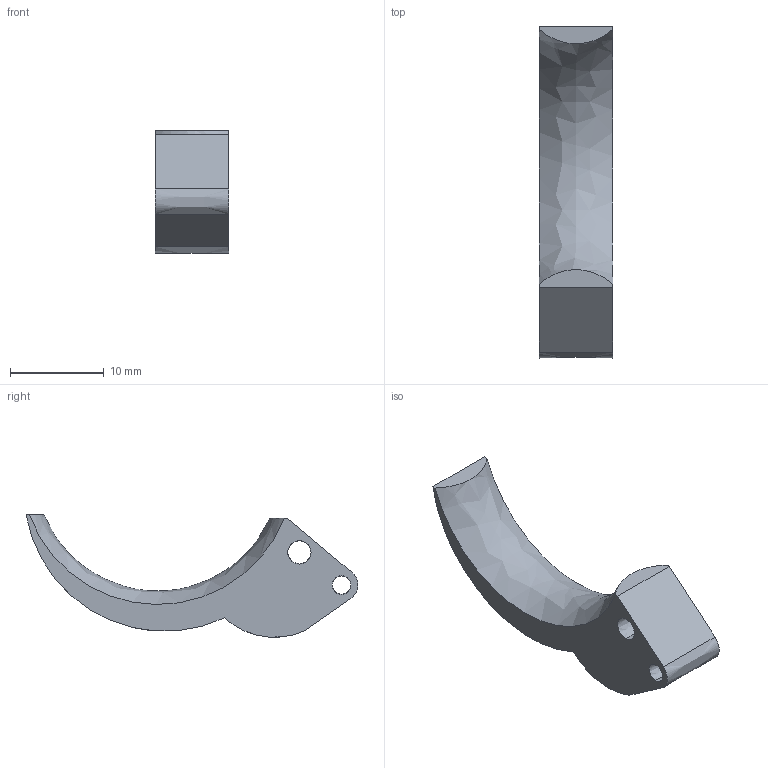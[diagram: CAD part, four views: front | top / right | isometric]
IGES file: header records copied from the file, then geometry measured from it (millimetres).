
Start section:  PTC IGES file: C:\Documents and Settings\audibk\personal\guns\walther\W alther_PPK\iges\abzug01.igs
Global section: file name: C:\Documents and Settings\audibk\personal\guns\walther\Walther_PPK\iges\abzug01.igs; native system: Pro/ENGINEER by Parametric Technology Corporation; preprocessor: 2002180; author: audibk; organization: Unknown; date: 030409.105322; units: millimetre
Bounding box: 7.8 x 35.39 x 13.05 mm (x, y, z)
Volume: 1471.1 mm3; surface area: 1144.9 mm2
Topology: 1 solids, 1 shells, 14 faces, 36 edges, 24 vertices
Faces by surface type: bspline 14
